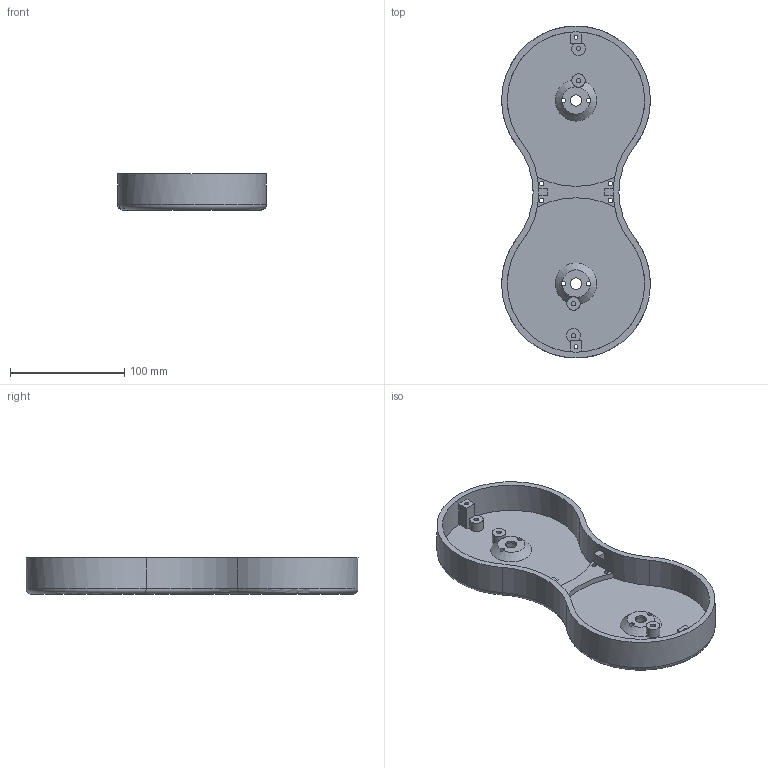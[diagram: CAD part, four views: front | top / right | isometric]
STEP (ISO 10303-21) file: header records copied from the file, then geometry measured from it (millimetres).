
FILE_DESCRIPTION((''),'2;1');
FILE_NAME('ART2BODYB_V-1','2022-08-24T09:23:03',('domen.bizjak'),('Audax d.o.o.'),'CREO PARAMETRIC BY PTC INC, 2021184','CREO PARAMETRIC BY PTC INC, 2021184','');
FILE_SCHEMA(('AP242_MANAGED_MODEL_BASED_3D_ENGINEERING_MIM_LF { 1 0 10303 442 1 1 4 }'));
Length unit declared in the file: millimetre
Products named in the file (1): ART2BODYB_V-1
Bounding box: 130 x 290 x 32 mm (x, y, z)
Volume: 258561.2 mm3; surface area: 107024.4 mm2
Topology: 1 solids, 1 shells, 125 faces, 415 edges, 325 vertices
Faces by surface type: cylinder 64, plane 55, torus 4, cone 2
Entity records: 6641 total; most frequent: CARTESIAN_POINT 945, DIRECTION 890, ORIENTED_EDGE 734, PRESENTATION_STYLE_ASSIGNMENT 423, STYLED_ITEM 423, CURVE_STYLE 417, EDGE_CURVE 367, AXIS2_PLACEMENT_3D 353
